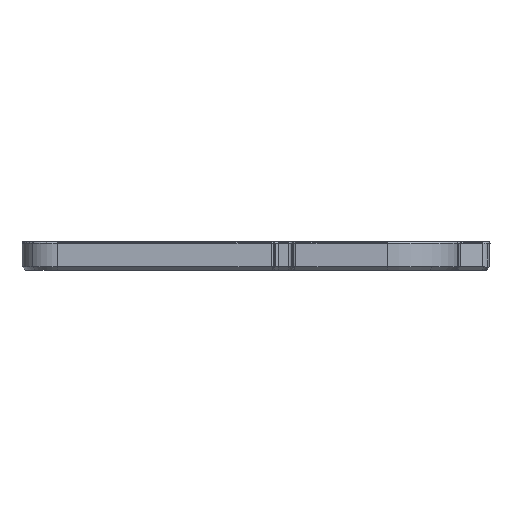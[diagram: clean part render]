
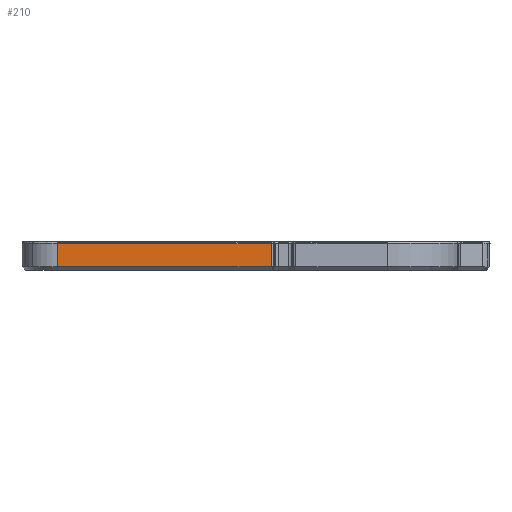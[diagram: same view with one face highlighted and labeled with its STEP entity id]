
A CAD part, front view. The second image highlights one B-rep face of the part: STEP entity #210.
In plain terms, the highlighted planar face has unit normal (-0.003, -1, 0).
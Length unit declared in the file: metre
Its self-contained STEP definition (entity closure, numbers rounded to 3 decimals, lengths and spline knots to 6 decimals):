
#210=ADVANCED_FACE('0:110',(#587),#588,.T.);
#587=FACE_OUTER_BOUND('',#992,.T.);
#588=PLANE('',#993);
#992=EDGE_LOOP('',(#2317,#2318,#2319,#2320));
#993=AXIS2_PLACEMENT_3D('',#2321,#2322,#2323);
#2317=ORIENTED_EDGE('',*,*,#2992,.F.);
#2318=ORIENTED_EDGE('',*,*,#2636,.F.);
#2319=ORIENTED_EDGE('',*,*,#2947,.F.);
#2320=ORIENTED_EDGE('',*,*,#2632,.F.);
#2321=CARTESIAN_POINT('',(0.019221,0.050269,-0.000001));
#2322=DIRECTION('',(-0.003,-1.,0.));
#2323=DIRECTION('',(-1.,0.003,0.));
#2632=EDGE_CURVE('0:716',#3176,#3178,#3179,.T.);
#2636=EDGE_CURVE('0:728',#3184,#3186,#3187,.T.);
#2947=EDGE_CURVE('0:731',#3178,#3184,#3692,.T.);
#2992=EDGE_CURVE('0:599',#3186,#3176,#3746,.T.);
#3176=VERTEX_POINT('',#3959);
#3178=VERTEX_POINT('',#3961);
#3179=LINE('',#3962,#3963);
#3184=VERTEX_POINT('',#3969);
#3186=VERTEX_POINT('',#3971);
#3187=LINE('',#3972,#3973);
#3692=LINE('',#4615,#4616);
#3746=LINE('',#4693,#4694);
#3959=CARTESIAN_POINT('',(0.023221,0.050258,0.002599));
#3961=CARTESIAN_POINT('',(0.02322,0.050258,-0.000651));
#3962=CARTESIAN_POINT('',(0.02322,0.050258,0.000924));
#3963=VECTOR('',#4910,1.0);
#3969=CARTESIAN_POINT('',(-0.00678,0.050342,-0.000649));
#3971=CARTESIAN_POINT('',(-0.006779,0.050342,0.002601));
#3972=CARTESIAN_POINT('',(-0.00678,0.050342,0.000001));
#3973=VECTOR('',#4918,1.0);
#4615=CARTESIAN_POINT('',(0.019256,0.050269,-0.000651));
#4616=VECTOR('',#5575,1.0);
#4693=CARTESIAN_POINT('',(0.03387,0.050228,0.002598));
#4694=VECTOR('',#5662,1.0);
#4910=DIRECTION('',(0.,0.,-1.));
#4918=DIRECTION('',(0.,0.,1.));
#5575=DIRECTION('',(-1.,0.003,0.));
#5662=DIRECTION('',(1.,-0.003,0.));
